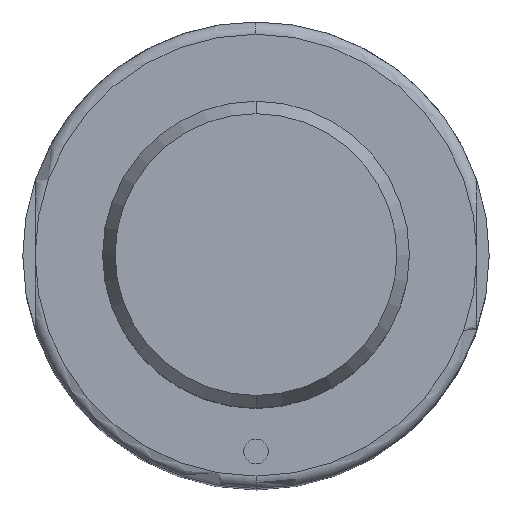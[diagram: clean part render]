
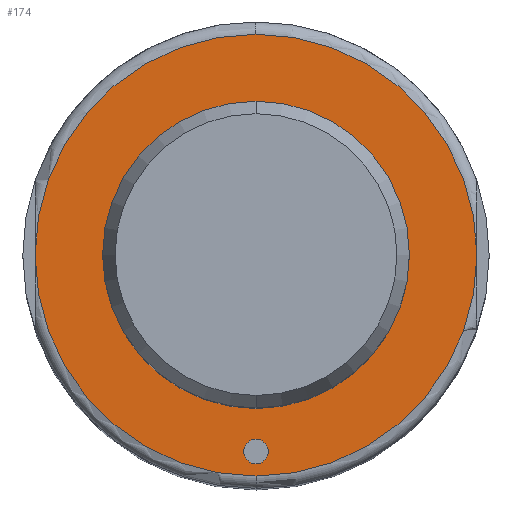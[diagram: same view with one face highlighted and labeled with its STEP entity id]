
A CAD part, top view. The second image highlights one B-rep face of the part: STEP entity #174.
In plain terms, the highlighted planar face has unit normal (0, 0, 1).
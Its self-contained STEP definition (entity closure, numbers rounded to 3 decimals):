
#105=FACE_BOUND('',#298,.T.);
#106=FACE_BOUND('',#299,.T.);
#107=FACE_BOUND('',#300,.T.);
#125=PLANE('',#985);
#174=ADVANCED_FACE('',(#105,#106,#107),#125,.T.);
#298=EDGE_LOOP('',(#459,#460,#461,#462));
#299=EDGE_LOOP('',(#463,#464));
#300=EDGE_LOOP('',(#465,#466));
#367=CIRCLE('',#968,12.5);
#368=CIRCLE('',#970,12.5);
#373=CIRCLE('',#979,18.);
#374=CIRCLE('',#980,18.);
#375=CIRCLE('',#981,18.);
#376=CIRCLE('',#982,18.);
#377=CIRCLE('',#983,1.);
#378=CIRCLE('',#984,1.);
#459=ORIENTED_EDGE('',*,*,#765,.F.);
#460=ORIENTED_EDGE('',*,*,#766,.F.);
#461=ORIENTED_EDGE('',*,*,#767,.F.);
#462=ORIENTED_EDGE('',*,*,#768,.F.);
#463=ORIENTED_EDGE('',*,*,#769,.F.);
#464=ORIENTED_EDGE('',*,*,#770,.F.);
#465=ORIENTED_EDGE('',*,*,#758,.T.);
#466=ORIENTED_EDGE('',*,*,#756,.T.);
#677=VERTEX_POINT('',#1411);
#678=VERTEX_POINT('',#1413);
#683=VERTEX_POINT('',#1432);
#684=VERTEX_POINT('',#1433);
#685=VERTEX_POINT('',#1435);
#686=VERTEX_POINT('',#1437);
#687=VERTEX_POINT('',#1440);
#688=VERTEX_POINT('',#1441);
#756=EDGE_CURVE('',#678,#677,#367,.T.);
#758=EDGE_CURVE('',#677,#678,#368,.T.);
#765=EDGE_CURVE('',#683,#684,#373,.T.);
#766=EDGE_CURVE('',#685,#683,#374,.T.);
#767=EDGE_CURVE('',#686,#685,#375,.T.);
#768=EDGE_CURVE('',#684,#686,#376,.T.);
#769=EDGE_CURVE('',#687,#688,#377,.T.);
#770=EDGE_CURVE('',#688,#687,#378,.T.);
#968=AXIS2_PLACEMENT_3D('',#1412,#1108,#1109);
#970=AXIS2_PLACEMENT_3D('',#1416,#1113,#1114);
#979=AXIS2_PLACEMENT_3D('',#1431,#1133,#1134);
#980=AXIS2_PLACEMENT_3D('',#1434,#1135,#1136);
#981=AXIS2_PLACEMENT_3D('',#1436,#1137,#1138);
#982=AXIS2_PLACEMENT_3D('',#1438,#1139,#1140);
#983=AXIS2_PLACEMENT_3D('',#1439,#1141,#1142);
#984=AXIS2_PLACEMENT_3D('',#1442,#1143,#1144);
#985=AXIS2_PLACEMENT_3D('',#1443,#1145,#1146);
#1108=DIRECTION('',(0.,0.,-1.));
#1109=DIRECTION('',(-1.,0.,0.));
#1113=DIRECTION('',(0.,0.,-1.));
#1114=DIRECTION('',(1.,0.,0.));
#1133=DIRECTION('',(0.,0.,-1.));
#1134=DIRECTION('',(-1.,0.,0.));
#1135=DIRECTION('',(0.,0.,-1.));
#1136=DIRECTION('',(1.,0.,0.));
#1137=DIRECTION('',(0.,0.,-1.));
#1138=DIRECTION('',(1.,0.,0.));
#1139=DIRECTION('',(0.,0.,-1.));
#1140=DIRECTION('',(-1.,0.,0.));
#1141=DIRECTION('',(0.,0.,1.));
#1142=DIRECTION('',(1.,0.,0.));
#1143=DIRECTION('',(0.,0.,1.));
#1144=DIRECTION('',(-1.,0.,0.));
#1145=DIRECTION('',(0.,0.,1.));
#1146=DIRECTION('',(1.,0.,0.));
#1411=CARTESIAN_POINT('',(0.,-12.5,78.));
#1412=CARTESIAN_POINT('',(0.,0.,78.));
#1413=CARTESIAN_POINT('',(0.,12.5,78.));
#1416=CARTESIAN_POINT('',(0.,0.,78.));
#1431=CARTESIAN_POINT('',(0.,0.,78.));
#1432=CARTESIAN_POINT('',(0.,18.,78.));
#1433=CARTESIAN_POINT('',(18.,0.,78.));
#1434=CARTESIAN_POINT('',(0.,0.,78.));
#1435=CARTESIAN_POINT('',(-18.,0.,78.));
#1436=CARTESIAN_POINT('',(0.,0.,78.));
#1437=CARTESIAN_POINT('',(0.,-18.,78.));
#1438=CARTESIAN_POINT('',(0.,0.,78.));
#1439=CARTESIAN_POINT('',(0.,-16.,78.));
#1440=CARTESIAN_POINT('',(0.,-15.,78.));
#1441=CARTESIAN_POINT('',(0.,-17.,78.));
#1442=CARTESIAN_POINT('',(0.,-16.,78.));
#1443=CARTESIAN_POINT('',(0.,0.,78.));
